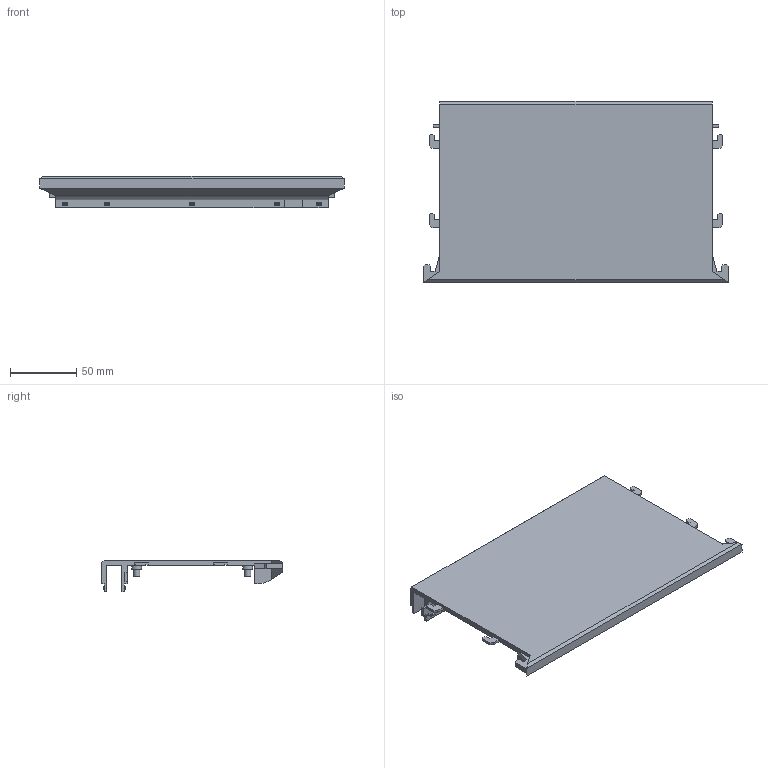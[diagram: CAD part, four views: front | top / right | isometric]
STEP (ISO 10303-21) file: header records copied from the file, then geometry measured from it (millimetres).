
FILE_DESCRIPTION(/* description */ ('STEP AP242','CAx-IF Rec.Pracs.---Representation and Presentation of Product Manufacturing Information (PMI)---4.0---2014-10-13','CAx-IF Rec.Pracs.---3D Tessellated Geometry---0.4---2014-09-14','2;1'),/* implementation_level */ '2;1');
FILE_NAME(/* name */ '687e6c8cf344454910d48564',/* time_stamp */ '2025-07-21T16:36:29Z',/* author */ (''),/* organization */ (''),/* preprocessor_version */ 'ST-DEVELOPER v20',/* originating_system */ 'ONSHAPE BY PTC INC, 1.201',/* authorisation */ ' ');
FILE_SCHEMA (('AP242_MANAGED_MODEL_BASED_3D_ENGINEERING_MIM_LF { 1 0 10303 442 1 1 4 }'));
Length unit declared in the file: metre
Products named in the file (1): Center Base
Bounding box: 229.83 x 136.75 x 24 mm (x, y, z)
Volume: 189253.5 mm3; surface area: 82510 mm2
Topology: 1 solids, 1 shells, 194 faces, 512 edges, 339 vertices
Faces by surface type: plane 162, cylinder 30, cone 2
Full cylindrical faces by diameter (mm): 1.4 x3, 4.8 x3, 7.5 x3
Entity records: 5874 total; most frequent: CARTESIAN_POINT 1031, ORIENTED_EDGE 1000, DIRECTION 954, EDGE_CURVE 500, LINE 436, VECTOR 436, VERTEX_POINT 336, AXIS2_PLACEMENT_3D 259
